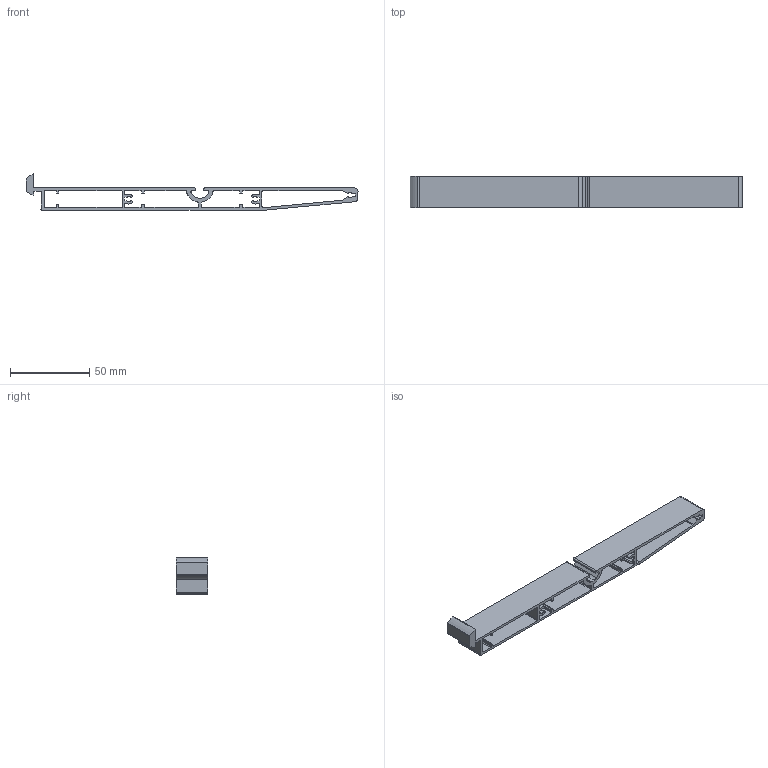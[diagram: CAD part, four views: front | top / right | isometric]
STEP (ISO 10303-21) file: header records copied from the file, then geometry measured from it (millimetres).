
FILE_DESCRIPTION(('STEP AP214'),'1');
FILE_NAME('cctmp_516DF14D-241D-4818-AA2A-7FAD5DAE835A_2023_04_28_15_22_26_0253_38312..stp','2023-04-28T13:22:26',('item Industrietechnik GmbH'),('CADClick - www.CADClick.com'),'Spatial InterOp 3D',' ','unknown authorization');
FILE_SCHEMA(('AUTOMOTIVE_DESIGN'));
Length unit declared in the file: millimetre
Products named in the file (2): item_0061853_Shelf Profile 8 200_L=20; item_0061853_Shelf Profile 8 200_L=20_1
Assembly tree (1 placements, depth 2):
  item_0061853_Shelf Profile 8 200_L=20
    item_0061853_Shelf Profile 8 200_L=20_1
Bounding box: 210 x 20 x 22.9 mm (x, y, z)
Volume: 18569.6 mm3; surface area: 21600.4 mm2
Topology: 1 solids, 1 shells, 188 faces, 558 edges, 372 vertices
Faces by surface type: cylinder 110, plane 78
Entity records: 7953 total; most frequent: DIRECTION 1158, CARTESIAN_POINT 1120, ORIENTED_EDGE 1116, EDGE_CURVE 558, AXIS2_PLACEMENT_3D 410, VERTEX_POINT 372, LINE 338, VECTOR 338
